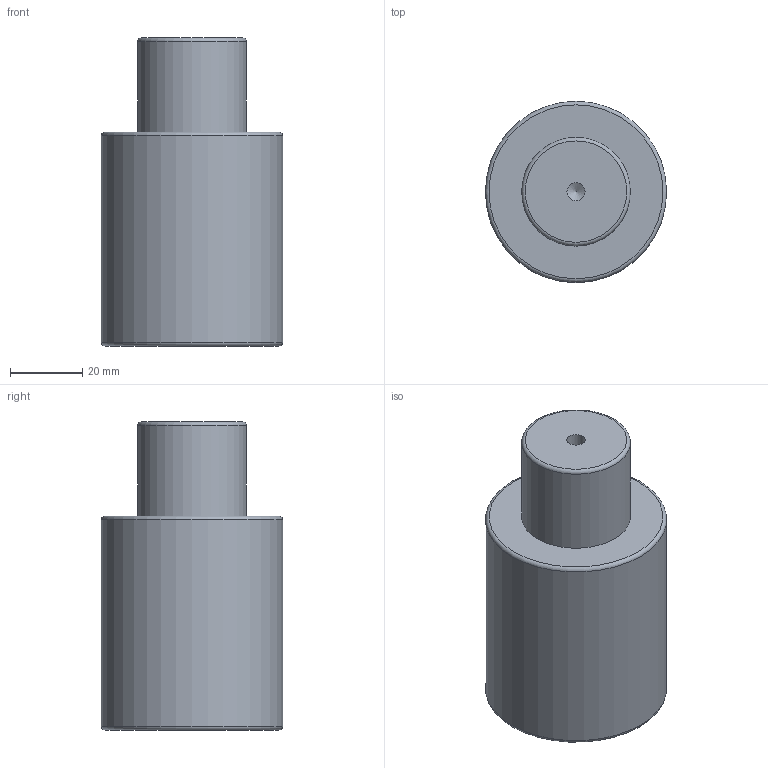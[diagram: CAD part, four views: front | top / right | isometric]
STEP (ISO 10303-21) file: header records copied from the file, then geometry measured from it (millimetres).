
FILE_DESCRIPTION(/* description */ (''),/* implementation_level */ '2;1');
FILE_NAME(/* name */ 'NV5-SMLX.50x25.stp',/* time_stamp */ '2018-08-31T16:08:34+02:00',/* author */ (''),/* organization */ (''),/* preprocessor_version */ 'ST-DEVELOPER v16',/* originating_system */ 'SIEMENS PLM Software NX 10.0',/* authorisation */ '');
FILE_SCHEMA (('AUTOMOTIVE_DESIGN { 1 0 10303 214 3 1 1 1 }'));
Length unit declared in the file: millimetre
Products named in the file (1): NV5-SMLX.50x25
Bounding box: 50 x 50 x 85 mm (x, y, z)
Volume: 132899 mm3; surface area: 16108 mm2
Topology: 1 solids, 1 shells, 12 faces, 24 edges, 15 vertices
Faces by surface type: cylinder 4, torus 3, plane 3, cone 2
Full cylindrical faces by diameter (mm): 5 x1, 8.5 x1, 30 x1, 50 x1
Entity records: 266 total; most frequent: DIRECTION 48, CARTESIAN_POINT 37, FACE_BOUND 24, AXIS2_PLACEMENT_3D 24, EDGE_LOOP 22, ORIENTED_EDGE 22, VERTEX_POINT 13, ADVANCED_FACE 12
